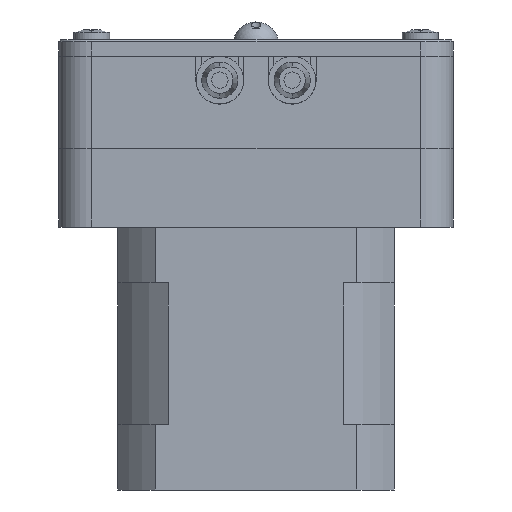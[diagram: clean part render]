
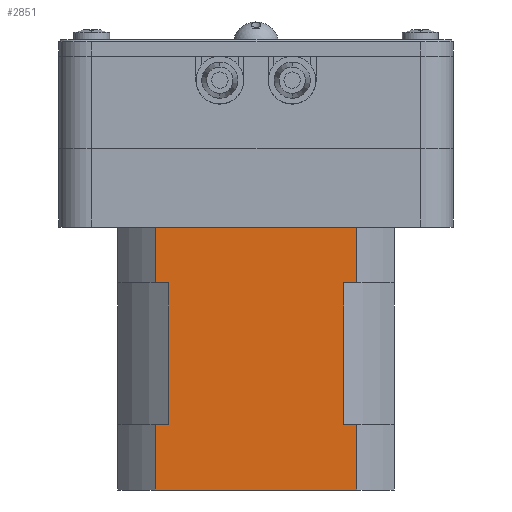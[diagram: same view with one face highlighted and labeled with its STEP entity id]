
A CAD part, front view. The second image highlights one B-rep face of the part: STEP entity #2851.
In plain terms, the highlighted planar face has unit normal (0, -1, 0) as drawn and (0, 1, 0) by its records, which use the part's own axes.
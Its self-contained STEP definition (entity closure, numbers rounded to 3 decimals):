
#193 = CARTESIAN_POINT ( 'NONE',  ( 21., 21., -10.5 ) ) ;
#194 = VECTOR ( 'NONE', #514, 1000. ) ;
#514 = DIRECTION ( 'NONE',  ( 1., 0., 0. ) ) ;
#633 = VECTOR ( 'NONE', #1962, 1000. ) ;
#662 = ORIENTED_EDGE ( 'NONE', *, *, #5261, .F. ) ;
#719 = LINE ( 'NONE', #7254, #194 ) ;
#743 = VECTOR ( 'NONE', #13646, 1000. ) ;
#795 = DIRECTION ( 'NONE',  ( 0., 0., 1. ) ) ;
#1180 = LINE ( 'NONE', #11925, #12266 ) ;
#1559 = VECTOR ( 'NONE', #795, 1000. ) ;
#1603 = VERTEX_POINT ( 'NONE', #12514 ) ;
#1695 = VECTOR ( 'NONE', #2076, 1000. ) ;
#1726 = ORIENTED_EDGE ( 'NONE', *, *, #8421, .F. ) ;
#1782 = CARTESIAN_POINT ( 'NONE',  ( -15.33, 21., -36. ) ) ;
#1939 = VERTEX_POINT ( 'NONE', #2798 ) ;
#1962 = DIRECTION ( 'NONE',  ( 1., 0., 0. ) ) ;
#1976 = CARTESIAN_POINT ( 'NONE',  ( 13.379, 21., -10.5 ) ) ;
#2019 = DIRECTION ( 'NONE',  ( 0., 0., 1. ) ) ;
#2076 = DIRECTION ( 'NONE',  ( 0., 0., 1. ) ) ;
#2227 = EDGE_CURVE ( 'NONE', #6513, #9912, #11997, .T. ) ;
#2269 = VECTOR ( 'NONE', #4355, 1000. ) ;
#2322 = CARTESIAN_POINT ( 'NONE',  ( 15.33, 21., -2. ) ) ;
#2330 = VERTEX_POINT ( 'NONE', #2322 ) ;
#2378 = AXIS2_PLACEMENT_3D ( 'NONE', #5792, #5000, #9339 ) ;
#2798 = CARTESIAN_POINT ( 'NONE',  ( 15.33, 21., -32. ) ) ;
#2851 = ADVANCED_FACE ( 'NONE', ( #7133 ), #4719, .F. ) ;
#3052 = EDGE_CURVE ( 'NONE', #12321, #2330, #3499, .T. ) ;
#3112 = CARTESIAN_POINT ( 'NONE',  ( -15.33, 21., -32. ) ) ;
#3254 = ORIENTED_EDGE ( 'NONE', *, *, #2227, .T. ) ;
#3393 = VECTOR ( 'NONE', #5583, 1000. ) ;
#3499 = LINE ( 'NONE', #8679, #13750 ) ;
#3538 = CARTESIAN_POINT ( 'NONE',  ( -13.379, 21., -32. ) ) ;
#3700 = ORIENTED_EDGE ( 'NONE', *, *, #4815, .F. ) ;
#4245 = ORIENTED_EDGE ( 'NONE', *, *, #14029, .F. ) ;
#4292 = LINE ( 'NONE', #10827, #2269 ) ;
#4355 = DIRECTION ( 'NONE',  ( 1., 0., 0. ) ) ;
#4719 = PLANE ( 'NONE',  #2378 ) ;
#4815 = EDGE_CURVE ( 'NONE', #9526, #9912, #8863, .T. ) ;
#5000 = DIRECTION ( 'NONE',  ( 0., -1., 0. ) ) ;
#5260 = CARTESIAN_POINT ( 'NONE',  ( 15.33, 21., -42. ) ) ;
#5261 = EDGE_CURVE ( 'NONE', #7696, #1603, #4292, .T. ) ;
#5438 = EDGE_LOOP ( 'NONE', ( #4245, #11807, #12410, #12144, #1726, #662, #8602, #13035, #3254, #3700, #9433, #13198 ) ) ;
#5507 = CARTESIAN_POINT ( 'NONE',  ( -13.379, 21., -32. ) ) ;
#5555 = DIRECTION ( 'NONE',  ( 1., 0., 0. ) ) ;
#5583 = DIRECTION ( 'NONE',  ( 1., 0., 0. ) ) ;
#5757 = VECTOR ( 'NONE', #9383, 1000. ) ;
#5792 = CARTESIAN_POINT ( 'NONE',  ( 21., 21., -10.5 ) ) ;
#6513 = VERTEX_POINT ( 'NONE', #5507 ) ;
#6579 = DIRECTION ( 'NONE',  ( 0., 0., 1. ) ) ;
#7133 = FACE_OUTER_BOUND ( 'NONE', #5438, .T. ) ;
#7208 = CARTESIAN_POINT ( 'NONE',  ( -15.33, 21., -10.5 ) ) ;
#7242 = CARTESIAN_POINT ( 'NONE',  ( 13.379, 21., -32. ) ) ;
#7254 = CARTESIAN_POINT ( 'NONE',  ( 13.379, 21., -32. ) ) ;
#7452 = CARTESIAN_POINT ( 'NONE',  ( -13.379, 21., -10.5 ) ) ;
#7696 = VERTEX_POINT ( 'NONE', #8178 ) ;
#7865 = VERTEX_POINT ( 'NONE', #12690 ) ;
#8178 = CARTESIAN_POINT ( 'NONE',  ( -15.33, 21., -42. ) ) ;
#8357 = LINE ( 'NONE', #12710, #633 ) ;
#8409 = CARTESIAN_POINT ( 'NONE',  ( -15.33, 21., -42. ) ) ;
#8421 = EDGE_CURVE ( 'NONE', #1603, #1939, #11814, .T. ) ;
#8500 = CARTESIAN_POINT ( 'NONE',  ( -15.33, 21., -2. ) ) ;
#8602 = ORIENTED_EDGE ( 'NONE', *, *, #11452, .T. ) ;
#8679 = CARTESIAN_POINT ( 'NONE',  ( 21., 21., -2. ) ) ;
#8863 = LINE ( 'NONE', #193, #3393 ) ;
#9077 = EDGE_CURVE ( 'NONE', #13309, #6513, #13572, .T. ) ;
#9339 = DIRECTION ( 'NONE',  ( 0., 0., -1. ) ) ;
#9383 = DIRECTION ( 'NONE',  ( 0., 0., -1. ) ) ;
#9433 = ORIENTED_EDGE ( 'NONE', *, *, #9855, .F. ) ;
#9526 = VERTEX_POINT ( 'NONE', #7208 ) ;
#9855 = EDGE_CURVE ( 'NONE', #12321, #9526, #11521, .T. ) ;
#9912 = VERTEX_POINT ( 'NONE', #7452 ) ;
#10578 = VERTEX_POINT ( 'NONE', #7242 ) ;
#10827 = CARTESIAN_POINT ( 'NONE',  ( -15.33, 21., -42. ) ) ;
#11007 = VECTOR ( 'NONE', #2019, 1000. ) ;
#11363 = CARTESIAN_POINT ( 'NONE',  ( 13.379, 21., -32. ) ) ;
#11449 = VECTOR ( 'NONE', #12211, 1000. ) ;
#11452 = EDGE_CURVE ( 'NONE', #7696, #13309, #11755, .T. ) ;
#11521 = LINE ( 'NONE', #1782, #5757 ) ;
#11755 = LINE ( 'NONE', #8409, #11007 ) ;
#11807 = ORIENTED_EDGE ( 'NONE', *, *, #12282, .F. ) ;
#11814 = LINE ( 'NONE', #5260, #1695 ) ;
#11925 = CARTESIAN_POINT ( 'NONE',  ( 15.33, 21., -36. ) ) ;
#11997 = LINE ( 'NONE', #3538, #11449 ) ;
#12144 = ORIENTED_EDGE ( 'NONE', *, *, #12845, .T. ) ;
#12211 = DIRECTION ( 'NONE',  ( 0., 0., 1. ) ) ;
#12266 = VECTOR ( 'NONE', #6579, 1000. ) ;
#12282 = EDGE_CURVE ( 'NONE', #13306, #7865, #8357, .T. ) ;
#12321 = VERTEX_POINT ( 'NONE', #8500 ) ;
#12410 = ORIENTED_EDGE ( 'NONE', *, *, #12791, .F. ) ;
#12514 = CARTESIAN_POINT ( 'NONE',  ( 15.33, 21., -42. ) ) ;
#12529 = CARTESIAN_POINT ( 'NONE',  ( 13.379, 21., -32. ) ) ;
#12606 = LINE ( 'NONE', #12529, #1559 ) ;
#12690 = CARTESIAN_POINT ( 'NONE',  ( 15.33, 21., -10.5 ) ) ;
#12710 = CARTESIAN_POINT ( 'NONE',  ( 21., 21., -10.5 ) ) ;
#12791 = EDGE_CURVE ( 'NONE', #10578, #13306, #12606, .T. ) ;
#12845 = EDGE_CURVE ( 'NONE', #10578, #1939, #719, .T. ) ;
#13035 = ORIENTED_EDGE ( 'NONE', *, *, #9077, .T. ) ;
#13198 = ORIENTED_EDGE ( 'NONE', *, *, #3052, .T. ) ;
#13306 = VERTEX_POINT ( 'NONE', #1976 ) ;
#13309 = VERTEX_POINT ( 'NONE', #3112 ) ;
#13572 = LINE ( 'NONE', #11363, #743 ) ;
#13646 = DIRECTION ( 'NONE',  ( 1., 0., 0. ) ) ;
#13750 = VECTOR ( 'NONE', #5555, 1000. ) ;
#14029 = EDGE_CURVE ( 'NONE', #7865, #2330, #1180, .T. ) ;
